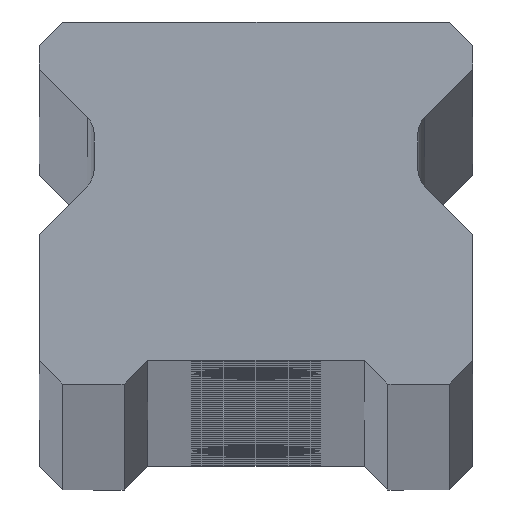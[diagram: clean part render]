
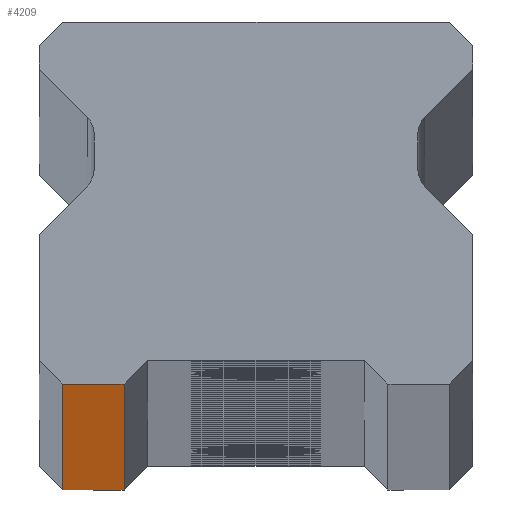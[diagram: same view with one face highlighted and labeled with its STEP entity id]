
A CAD part, top view. The second image highlights one B-rep face of the part: STEP entity #4209.
In plain terms, the highlighted planar face has unit normal (0, -1, 0).
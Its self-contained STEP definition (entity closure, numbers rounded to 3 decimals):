
#369 = LINE ( 'NONE', #4721, #2151 ) ;
#462 = DIRECTION ( 'NONE',  ( 1., 0., 0. ) ) ;
#695 = CARTESIAN_POINT ( 'NONE',  ( -7., 0., 1610. ) ) ;
#1369 = LINE ( 'NONE', #8809, #5029 ) ;
#1396 = LINE ( 'NONE', #8976, #6931 ) ;
#1478 = AXIS2_PLACEMENT_3D ( 'NONE', #4555, #3268, #6013 ) ;
#1500 = LINE ( 'NONE', #8261, #2424 ) ;
#1805 = EDGE_CURVE ( 'NONE', #5332, #5114, #1396, .T. ) ;
#2151 = VECTOR ( 'NONE', #6150, 1000. ) ;
#2424 = VECTOR ( 'NONE', #6769, 1000. ) ;
#2516 = DIRECTION ( 'NONE',  ( 1., 0., 0. ) ) ;
#3268 = DIRECTION ( 'NONE',  ( 0., 1., 0. ) ) ;
#3627 = EDGE_CURVE ( 'NONE', #5754, #5732, #1369, .T. ) ;
#3750 = EDGE_CURVE ( 'NONE', #5332, #5754, #369, .T. ) ;
#3813 = EDGE_LOOP ( 'NONE', ( #6787, #7799, #8534, #5025 ) ) ;
#4209 = ADVANCED_FACE ( 'NONE', ( #4568 ), #4682, .F. ) ;
#4380 = CARTESIAN_POINT ( 'NONE',  ( -7., 0., -1610. ) ) ;
#4555 = CARTESIAN_POINT ( 'NONE',  ( 11.5, 0., 1610. ) ) ;
#4568 = FACE_OUTER_BOUND ( 'NONE', #3813, .T. ) ;
#4682 = PLANE ( 'NONE',  #1478 ) ;
#4721 = CARTESIAN_POINT ( 'NONE',  ( -10.25, 0., 1610. ) ) ;
#5025 = ORIENTED_EDGE ( 'NONE', *, *, #3750, .T. ) ;
#5029 = VECTOR ( 'NONE', #2516, 1000. ) ;
#5114 = VERTEX_POINT ( 'NONE', #695 ) ;
#5332 = VERTEX_POINT ( 'NONE', #5569 ) ;
#5569 = CARTESIAN_POINT ( 'NONE',  ( -10.25, 0., 1610. ) ) ;
#5732 = VERTEX_POINT ( 'NONE', #4380 ) ;
#5754 = VERTEX_POINT ( 'NONE', #7100 ) ;
#6013 = DIRECTION ( 'NONE',  ( -1., 0., 0. ) ) ;
#6150 = DIRECTION ( 'NONE',  ( 0., 0., -1. ) ) ;
#6769 = DIRECTION ( 'NONE',  ( 0., 0., 1. ) ) ;
#6787 = ORIENTED_EDGE ( 'NONE', *, *, #3627, .T. ) ;
#6931 = VECTOR ( 'NONE', #462, 1000. ) ;
#7100 = CARTESIAN_POINT ( 'NONE',  ( -10.25, 0., -1610. ) ) ;
#7799 = ORIENTED_EDGE ( 'NONE', *, *, #8884, .T. ) ;
#8261 = CARTESIAN_POINT ( 'NONE',  ( -7., 0., -1610. ) ) ;
#8534 = ORIENTED_EDGE ( 'NONE', *, *, #1805, .F. ) ;
#8809 = CARTESIAN_POINT ( 'NONE',  ( 11.5, 0., -1610. ) ) ;
#8884 = EDGE_CURVE ( 'NONE', #5732, #5114, #1500, .T. ) ;
#8976 = CARTESIAN_POINT ( 'NONE',  ( 11.5, 0., 1610. ) ) ;
